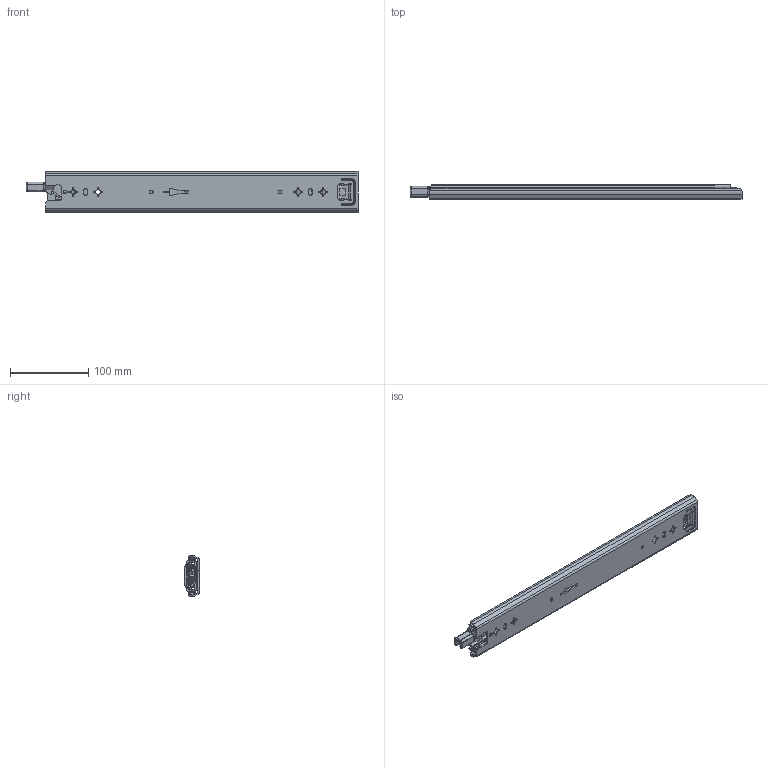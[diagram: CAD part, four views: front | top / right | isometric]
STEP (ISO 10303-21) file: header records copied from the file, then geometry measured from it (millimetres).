
FILE_DESCRIPTION((''),'2;1');
FILE_NAME('1053-3S-16YOU_ASM','2023-04-06T',('jishu015'),(''),'PRO/ENGINEER BY PARAMETRIC TECHNOLOGY CORPORATION, 2010280','PRO/ENGINEER BY PARAMETRIC TECHNOLOGY CORPORATION, 2010280','');
FILE_SCHEMA(('CONFIG_CONTROL_DESIGN'));
Length unit declared in the file: millimetre
Products named in the file (20): 1053-02-18WAIKE12____; 1053WEIJIAO12____; 1053-3S-24WAIKE12_____ASM; 1053ZHUTIAO-17521____; 53-5-6GANZHU21____; 1053ZHUTIAO-175MM21_____ASM; 1053-02-18ZHONGGUI21____; ZHONGGUIPEIJIAN21____; ZHONGGUISUOKOU21____; 1053-02-18ZHONGGUI21_____ASM; 1053XIAOZHUJIA-14GE21____; 1053XIAOZHUJIA-14GE21_____ASM; 1053-02-18NEIGUI21____; DAOPIAN21____; PIAN21____; 1053-3SBANJI12321____; JIAO-121____; 50XINSUOKOU2____; 1053-02-18NEIGUI21_____ASM; 1053-3S-16YOU_ASM
Assembly tree (49 placements, depth 3):
  1053-3S-16YOU_ASM
    1053-3S-24WAIKE12_____ASM
      1053-02-18WAIKE12____
      1053WEIJIAO12____
    1053ZHUTIAO-175MM21_____ASM  x2
      1053ZHUTIAO-17521____
      53-5-6GANZHU21____
    1053-02-18ZHONGGUI21_____ASM
      1053-02-18ZHONGGUI21____
      ZHONGGUIPEIJIAN21____
      ZHONGGUISUOKOU21____
    1053XIAOZHUJIA-14GE21_____ASM
      1053XIAOZHUJIA-14GE21____
      53-5-6GANZHU21____  x24
    1053-02-18NEIGUI21_____ASM
      1053-02-18NEIGUI21____
      DAOPIAN21____
      PIAN21____
      1053-3SBANJI12321____
      JIAO-121____
      50XINSUOKOU2____
Bounding box: 425.42 x 18.7 x 53 mm (x, y, z)
Volume: 151219.5 mm3; surface area: 173904.3 mm2
Topology: 51 solids, 51 shells, 1534 faces, 4372 edges, 2754 vertices
Faces by surface type: plane 659, cylinder 635, sphere 80, bspline 75, cone 46, extrusion 23, torus 16
Entity records: 51173 total; most frequent: CARTESIAN_POINT 13245, ORIENTED_EDGE 8034, DIRECTION 7748, EDGE_CURVE 4017, AXIS2_PLACEMENT_3D 2667, VERTEX_POINT 2596, VECTOR 2414, LINE 2391
